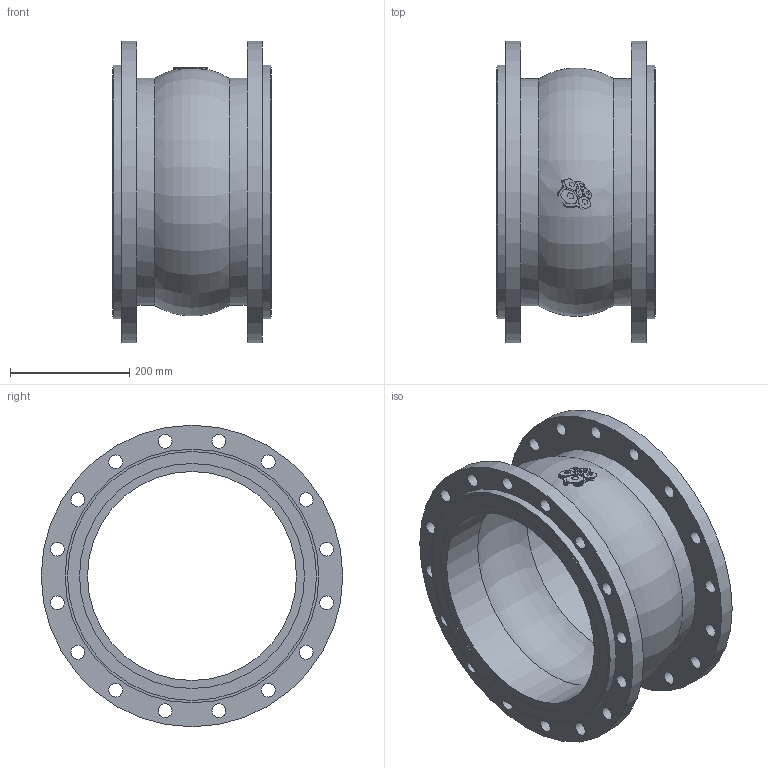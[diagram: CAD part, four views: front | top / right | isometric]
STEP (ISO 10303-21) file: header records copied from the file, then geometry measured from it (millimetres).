
FILE_DESCRIPTION(('STEP AP203'), '1');
FILE_NAME('3D_500-350-EPDM-FF', '', ('UNSPECIFIED'), ('UNSPECIFIED'), 'C3D Converter', 'C3D Toolkit', '');
FILE_SCHEMA(('CONFIG_CONTROL_DESIGN'));
Length unit declared in the file: millimetre
Bounding box: 265 x 505 x 505 mm (x, y, z)
Volume: 9768082 mm3; surface area: 1192097.1 mm2
Topology: 1 solids, 1 shells, 887 faces, 2603 edges, 1742 vertices
Faces by surface type: plane 833, cylinder 46, torus 8
Full cylindrical faces by diameter (mm): 23 x32, 350 x2, 377 x2, 381 x4, 417 x2, 425 x2, 505 x2
Entity records: 38130 total; most frequent: CARTESIAN_POINT 8942, ORIENTED_EDGE 5110, DIRECTION 3636, EDGE_CURVE 2555, VERTEX_POINT 1742, LINE 1626, VECTOR 1626, EDGE_LOOP 1025
